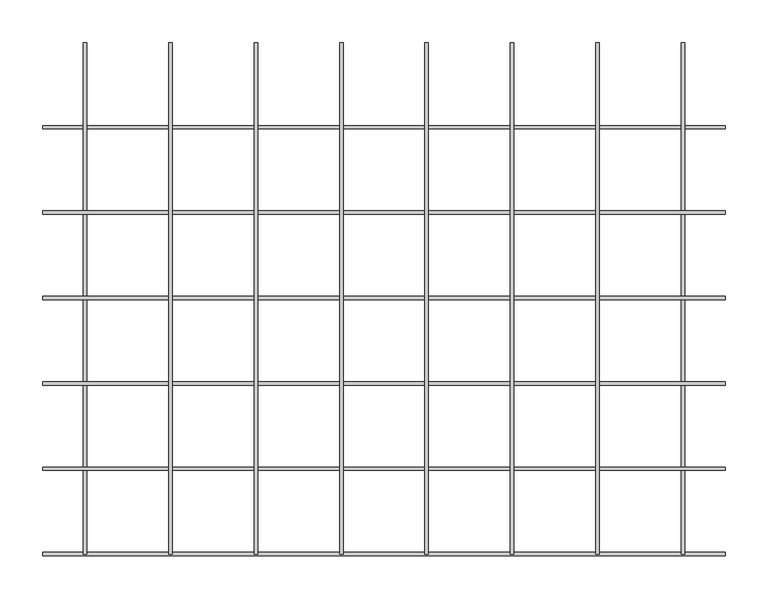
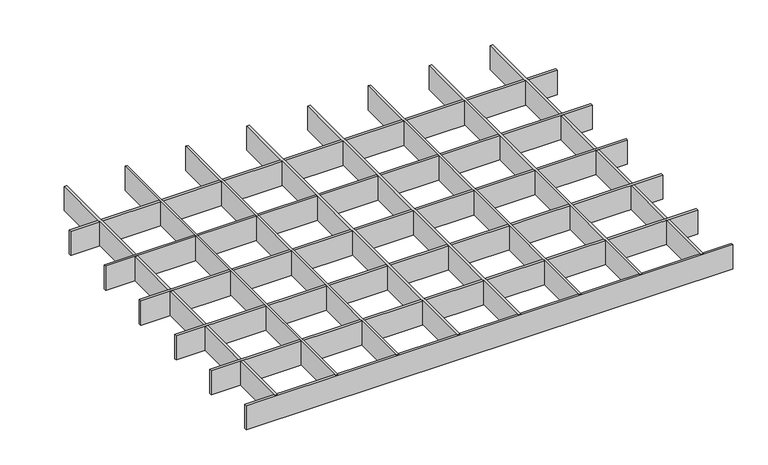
"""IFC4 building model written with IfcOpenShell, lengths in millimetres: proxy geometry, durlum_GEO_panel : durlum_GEO_4_length_cut."""

import ifcopenshell
import ifcopenshell.guid

model = None  # the IFC model being written
_history = None  # IfcOwnerHistory: only IFC2X3 demands one
_inside = {}  # id of a spatial element -> (the spatial element, [elements in it])
_under = {}  # id of a project, library or spatial element -> (it, [spatial elements below it])
_declared = {}  # id of a project -> (the project, [libraries it declares])
_typed = {}  # id of a type object -> (the type object, [elements of that type])
_made_of = {}  # id of a material, layer set ... -> (it, [elements and type objects made of it])


def new_model(schema):
    """Start an empty IFC model of exactly this schema.

    Asked for "IFC4X3", IfcOpenShell would pick the latest addendum, in which some entities
    have other attributes; the version numbers below select the first issue.
    IFC2X3 requires an IfcOwnerHistory on every rooted entity: one is made here for all.
    """
    global model, _history
    if schema == "IFC4X3":
        model = ifcopenshell.file(schema_version=(4, 3, 0, 0))
    else:
        model = ifcopenshell.file(schema=schema)
    _inside.clear()
    _under.clear()
    _declared.clear()
    _typed.clear()
    _made_of.clear()
    _history = None
    if model.schema == "IFC2X3":
        org = make("IfcOrganization", Name="unknown")
        user = make(
            "IfcPersonAndOrganization",
            ThePerson=make("IfcPerson", FamilyName="unknown"),
            TheOrganization=org,
        )
        app = make(
            "IfcApplication",
            ApplicationDeveloper=org,
            Version="unknown",
            ApplicationFullName="unknown",
            ApplicationIdentifier="unknown",
        )
        _history = make(
            "IfcOwnerHistory",
            OwningUser=user,
            OwningApplication=app,
            ChangeAction="ADDED",
            CreationDate=0,
        )
    return model


def make(cls, **values):
    """One entity of the class cls with the attributes given. An attribute that is None is left unset."""
    return model.create_entity(
        cls, **{name: value for name, value in values.items() if value is not None}
    )


def rooted(cls, **values):
    """An entity with a GlobalId (a new one), such as an element, a storey or a relation."""
    return make(cls, GlobalId=ifcopenshell.guid.new(), OwnerHistory=_history, **values)


def si_unit(unit_type, name, prefix=None):
    """IfcSIUnit, for example si_unit("LENGTHUNIT", "METRE", prefix="MILLI")."""
    return make("IfcSIUnit", UnitType=unit_type, Prefix=prefix, Name=name)


def assignment(units):
    """IfcUnitAssignment: the units of a project."""
    return None if units is None else make("IfcUnitAssignment", Units=units)


def point(xyz):
    """IfcCartesianPoint."""
    return None if xyz is None else make("IfcCartesianPoint", Coordinates=xyz)


def direction(xyz):
    """IfcDirection."""
    return None if xyz is None else make("IfcDirection", DirectionRatios=xyz)


def frame(location, z_axis=None, x_axis=None):
    """IfcAxis2Placement3D, a coordinate frame: its origin and axes. An axis left out is left unset."""
    return make(
        "IfcAxis2Placement3D",
        Location=point(location),
        Axis=direction(z_axis),
        RefDirection=direction(x_axis),
    )


def origin():
    """The frame at (0, 0, 0) with its axes left unset."""
    return frame((0.0, 0.0, 0.0))


def origin_with_axes():
    """The frame at (0, 0, 0) with the z axis (0, 0, 1) and the x axis (1, 0, 0) written out."""
    return frame((0.0, 0.0, 0.0), z_axis=(0.0, 0.0, 1.0), x_axis=(1.0, 0.0, 0.0))


def place(relative_to, where):
    """IfcLocalPlacement: puts the frame where relative to a parent placement (None: the world)."""
    return make(
        "IfcLocalPlacement", PlacementRelTo=relative_to, RelativePlacement=where
    )


def context(
    kind, dimensions, precision=None, world=None, true_north=None, identifier=None
):
    """IfcGeometricRepresentationContext, for example the 3D "Model" context."""
    return make(
        "IfcGeometricRepresentationContext",
        ContextIdentifier=identifier,
        ContextType=kind,
        CoordinateSpaceDimension=dimensions,
        Precision=precision,
        WorldCoordinateSystem=world,
        TrueNorth=true_north,
    )


def project(units=None, contexts=None):
    """IfcProject with its units and contexts."""
    return rooted(
        "IfcProject",
        Name="project",
        RepresentationContexts=contexts,
        UnitsInContext=assignment(units),
    )


def spatial(cls, under=None, at=None, **own):
    """A site, building, storey or space (cls), placed at a placement, below another one or the project."""
    s = rooted(cls, ObjectPlacement=at, **own)
    if under is not None:
        _under.setdefault(under.id(), (under, []))[1].append(s)
    return s


def polyline(points):
    """IfcPolyline through the points."""
    return make("IfcPolyline", Points=[point(p) for p in points])


def outline(outer, holes=None, kind="AREA"):
    """IfcArbitraryClosedProfileDef: a profile drawn as a closed curve; with holes, ...WithVoids."""
    if holes is None:
        return make("IfcArbitraryClosedProfileDef", ProfileType=kind, OuterCurve=outer)
    return make(
        "IfcArbitraryProfileDefWithVoids",
        ProfileType=kind,
        OuterCurve=outer,
        InnerCurves=holes,
    )


def extrude(swept, where, along, depth):
    """IfcExtrudedAreaSolid: the profile swept, set in the frame where, extruded along a direction by depth."""
    return make(
        "IfcExtrudedAreaSolid",
        SweptArea=swept,
        Position=where,
        ExtrudedDirection=direction(along),
        Depth=depth,
    )


def shape(context_of_items, identifier, shape_type, items):
    """IfcShapeRepresentation: the items that make up one representation, for example the "Body"."""
    return make(
        "IfcShapeRepresentation",
        ContextOfItems=context_of_items,
        RepresentationIdentifier=identifier,
        RepresentationType=shape_type,
        Items=items,
    )


def source(mapping_origin, context_of_items, identifier, shape_type, items):
    """IfcRepresentationMap: a shape defined once, which mapped items show again and again."""
    return make(
        "IfcRepresentationMap",
        MappingOrigin=mapping_origin,
        MappedRepresentation=shape(context_of_items, identifier, shape_type, items),
    )


def transform(
    local_origin,
    x_axis=None,
    y_axis=None,
    z_axis=None,
    scale=None,
    scale2=None,
    scale3=None,
    uniform=True,
):
    """IfcCartesianTransformationOperator3D, or its non-uniform kind. x_axis, y_axis, z_axis: its Axis1, 2, 3."""
    if uniform:
        return make(
            "IfcCartesianTransformationOperator3D",
            Axis1=direction(x_axis),
            Axis2=direction(y_axis),
            LocalOrigin=point(local_origin),
            Scale=scale,
            Axis3=direction(z_axis),
        )
    return make(
        "IfcCartesianTransformationOperator3DnonUniform",
        Axis1=direction(x_axis),
        Axis2=direction(y_axis),
        LocalOrigin=point(local_origin),
        Scale=scale,
        Axis3=direction(z_axis),
        Scale2=scale2,
        Scale3=scale3,
    )


def mapped(mapping_source, mapping_target):
    """IfcMappedItem: shows the shape of a source again, moved by a transform."""
    return make(
        "IfcMappedItem", MappingSource=mapping_source, MappingTarget=mapping_target
    )


def made_of(thing, what):
    """Note that an element or type object is made of a material, layer set ...; save() writes the relation."""
    if what is not None:
        _made_of.setdefault(what.id(), (what, []))[1].append(thing)
    return thing


def element(
    cls,
    number,
    at=None,
    inside=None,
    cuts=None,
    type_object=None,
    material=None,
    context=None,
    identifier="Body",
    shape_type=None,
    held_by="IfcProductDefinitionShape",
    body=None,
    shapes=None,
    **own,
):
    """One element of the class cls, such as IfcWall. Its Tag is "e" and its number.

    at: its placement. inside: the storey or other place that contains it. cuts: it is an
    opening in that element (IfcRelVoidsElement). A single representation is given by context,
    identifier, shape_type and body (its items); several are given by shapes. held_by: the class
    of the entity that holds the representations. save() writes the other relations.
    """
    e = rooted(cls, Tag="e%d" % number, ObjectPlacement=at, **own)
    if body is not None:
        shapes = [shape(context, identifier, shape_type, body)]
    if shapes is not None:
        e.Representation = make(held_by, Representations=shapes)
    if inside is not None:
        _inside.setdefault(inside.id(), (inside, []))[1].append(e)
    if cuts is not None:
        rooted(
            "IfcRelVoidsElement", RelatingBuildingElement=cuts, RelatedOpeningElement=e
        )
    if type_object is not None:
        _typed.setdefault(type_object.id(), (type_object, []))[1].append(e)
    return made_of(e, material)


def aggregate(whole, parts):
    """IfcRelAggregates: a whole, such as a stair, and the parts it consists of."""
    return rooted("IfcRelAggregates", RelatingObject=whole, RelatedObjects=parts)


def save(model, path):
    """Write the relations noted so far, then the file.

    IfcRelAggregates (storeys below a building ...), IfcRelContainedInSpatialStructure (elements
    in a storey), IfcRelDefinesByType, IfcRelAssociatesMaterial and IfcRelDeclares: one each for
    every whole, place, type object, material and project.
    """
    for whole, parts in _under.values():
        aggregate(whole, parts)
    for where, things in _inside.values():
        rooted(
            "IfcRelContainedInSpatialStructure",
            RelatedElements=things,
            RelatingStructure=where,
        )
    for kind, things in _typed.values():
        rooted("IfcRelDefinesByType", RelatedObjects=things, RelatingType=kind)
    for what, things in _made_of.values():
        rooted("IfcRelAssociatesMaterial", RelatedObjects=things, RelatingMaterial=what)
    for by, libraries in _declared.values():
        rooted("IfcRelDeclares", RelatingContext=by, RelatedDefinitions=libraries)
    model.write(path)


def generic_models_0d36629b(model_context):
    return source(origin(), model_context, "Body", "SweptSolid", [
        extrude(outline(polyline([(248.0, 299.5), (252.0, 299.5), (252.0, -299.5), (248.0, -299.5), (248.0, 299.5)])), origin_with_axes(), (0.0, 0.0, 1.0), 42.0),
        extrude(outline(polyline([(148.0, 299.5), (152.0, 299.5), (152.0, -299.5), (148.0, -299.5), (148.0, 299.5)])), origin_with_axes(), (0.0, 0.0, 1.0), 42.0),
        extrude(outline(polyline([(48.0, 299.5), (52.0, 299.5), (52.0, -299.5), (48.0, -299.5), (48.0, 299.5)])), origin_with_axes(), (0.0, 0.0, 1.0), 42.0),
        extrude(outline(polyline([(-52.0, 299.5), (-48.0, 299.5), (-48.0, -299.5), (-52.0, -299.5), (-52.0, 299.5)])), origin_with_axes(), (0.0, 0.0, 1.0), 42.0),
        extrude(outline(polyline([(-152.0, 299.5), (-148.0, 299.5), (-148.0, -299.5), (-152.0, -299.5), (-152.0, 299.5)])), origin_with_axes(), (0.0, 0.0, 1.0), 42.0),
        extrude(outline(polyline([(-252.0, 299.5), (-248.0, 299.5), (-248.0, -299.5), (-252.0, -299.5), (-252.0, 299.5)])), origin_with_axes(), (0.0, 0.0, 1.0), 42.0),
        extrude(outline(polyline([(399.75, -197.5), (399.75, -201.5), (-399.75, -201.5), (-399.75, -197.5), (399.75, -197.5)])), origin_with_axes(), (0.0, 0.0, 1.0), 42.0),
        extrude(outline(polyline([(399.75, -97.5), (399.75, -101.5), (-399.75, -101.5), (-399.75, -97.5), (399.75, -97.5)])), origin_with_axes(), (0.0, 0.0, 1.0), 42.0),
        extrude(outline(polyline([(399.75, 2.5), (399.75, -1.5), (-399.75, -1.5), (-399.75, 2.5), (399.75, 2.5)])), origin_with_axes(), (0.0, 0.0, 1.0), 42.0),
        extrude(outline(polyline([(399.75, 102.5), (399.75, 98.5), (-399.75, 98.5), (-399.75, 102.5), (399.75, 102.5)])), origin_with_axes(), (0.0, 0.0, 1.0), 42.0),
        extrude(outline(polyline([(348.0, 299.5), (352.0, 299.5), (352.0, -299.5), (348.0, -299.5), (348.0, 299.5)])), origin_with_axes(), (0.0, 0.0, 1.0), 42.0),
        extrude(outline(polyline([(-352.0, 299.5), (-348.0, 299.5), (-348.0, -299.5), (-352.0, -299.5), (-352.0, 299.5)])), origin_with_axes(), (0.0, 0.0, 1.0), 42.0),
        extrude(outline(polyline([(399.75, -297.5), (399.75, -301.5), (-399.75, -301.5), (-399.75, -297.5), (399.75, -297.5)])), origin_with_axes(), (0.0, 0.0, 1.0), 42.0),
        extrude(outline(polyline([(399.75, 202.5), (399.75, 198.5), (-399.75, 198.5), (-399.75, 202.5), (399.75, 202.5)])), origin_with_axes(), (0.0, 0.0, 1.0), 42.0),
    ])


if __name__ == "__main__":
    model = new_model("IFC4")
    model_context = context("Model", 3, world=origin())
    ifc_project = project(units=[si_unit("LENGTHUNIT", "METRE", prefix="MILLI")], contexts=[model_context])
    site = spatial("IfcSite", under=ifc_project)
    building = spatial("IfcBuilding", under=site)
    placement = place(None, origin())
    generic_models_shape = generic_models_0d36629b(model_context)
    element("IfcBuildingElementProxy", 1, Name="durlum_GEO_panel : durlum_GEO_4_length_cut", ObjectType="durlum_GEO_panel : durlum_GEO_4_length_cut", at=placement, inside=building, context=model_context, shape_type="MappedRepresentation", body=[
        mapped(generic_models_shape, transform((0.0, 0.0, 0.0), x_axis=(1.0, 0.0, 0.0), y_axis=(0.0, 1.0, 0.0), z_axis=(0.0, 0.0, 1.0))),
    ])
    save(model, "model.ifc")
